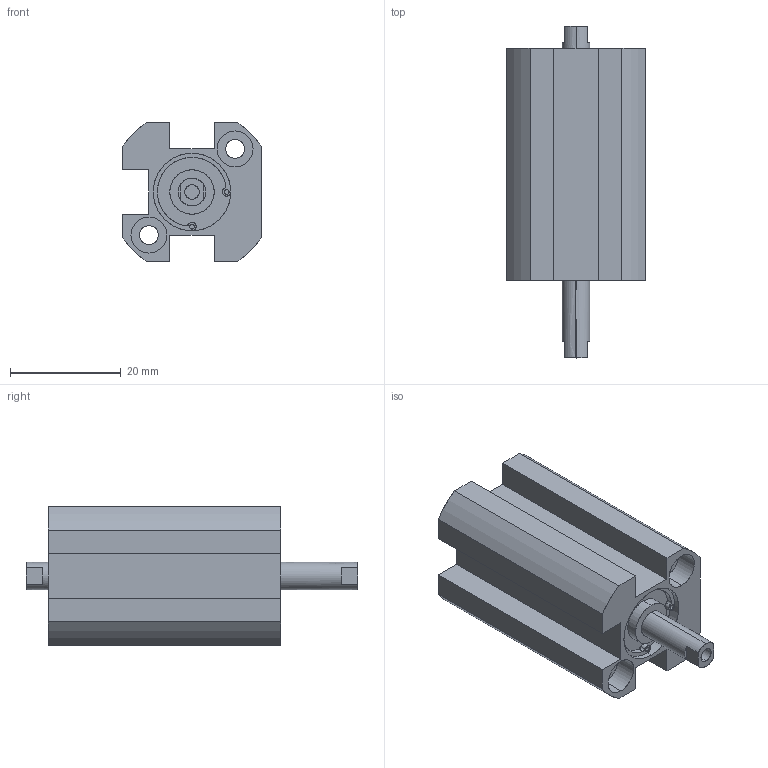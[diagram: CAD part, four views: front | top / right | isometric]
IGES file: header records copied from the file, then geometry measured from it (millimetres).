
Start section: SolidWorks IGES file using analytic representation for surfaces
Global section: file name: C:\Users\Toshiba\Desktop\XG#7-10-10.IGS; native system: SolidWorks 2014; preprocessor: SolidWorks 2014; author: Toshiba; date: 160524.095510; units: millimetre
Bounding box: 25 x 60 x 25 mm (x, y, z)
Surface area: 7941.4 mm2 (no closed solid volume)
Topology: 0 solids, 0 shells, 106 faces, 1768 edges, 1764 vertices
Faces by surface type: revolution 62, bspline 44
